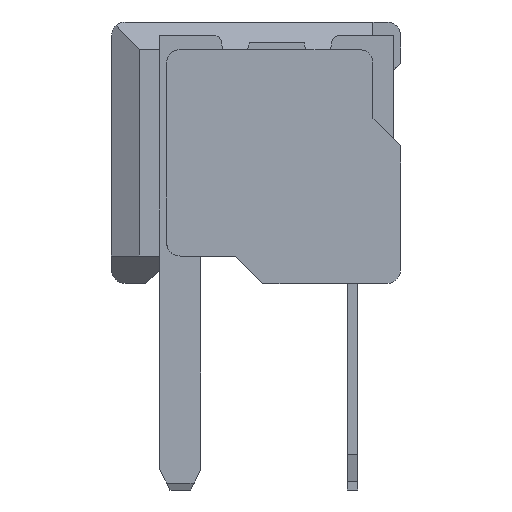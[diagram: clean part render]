
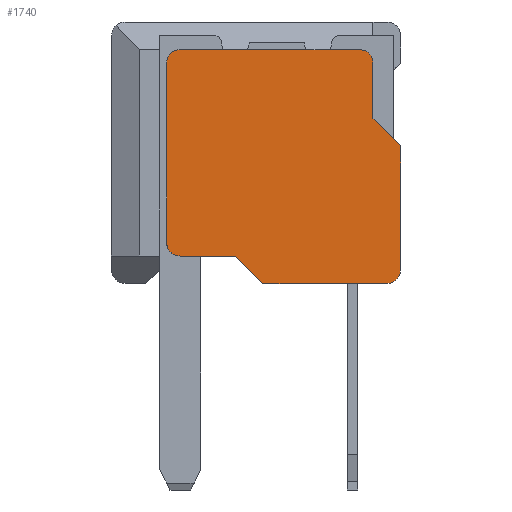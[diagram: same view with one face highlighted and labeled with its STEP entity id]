
A CAD part, left-side view. The second image highlights one B-rep face of the part: STEP entity #1740.
In plain terms, the highlighted planar face has unit normal (-1, 0, 0).
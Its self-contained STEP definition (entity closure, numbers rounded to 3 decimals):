
#253 = ORIENTED_EDGE ( 'NONE', *, *, #3588, .F. ) ;
#292 = LINE ( 'NONE', #7958, #14347 ) ;
#307 = CARTESIAN_POINT ( 'NONE',  ( 3.5, -1., 0.6 ) ) ;
#425 = CARTESIAN_POINT ( 'NONE',  ( 3.5, -3.6, 3.2 ) ) ;
#457 = ORIENTED_EDGE ( 'NONE', *, *, #16683, .F. ) ;
#714 = DIRECTION ( 'NONE',  ( -1., 0., 0. ) ) ;
#1103 = VERTEX_POINT ( 'NONE', #16041 ) ;
#1138 = ORIENTED_EDGE ( 'NONE', *, *, #11738, .F. ) ;
#1236 = LINE ( 'NONE', #6182, #3949 ) ;
#1487 = DIRECTION ( 'NONE',  ( 1., 0., 0. ) ) ;
#1680 = DIRECTION ( 'NONE',  ( 0., 1., 0. ) ) ;
#1740 = ADVANCED_FACE ( 'NONE', ( #6965 ), #8694, .T. ) ;
#1796 = DIRECTION ( 'NONE',  ( 0., 1., 0. ) ) ;
#1907 = CARTESIAN_POINT ( 'NONE',  ( 3.5, -4.2, 0.2 ) ) ;
#2311 = EDGE_CURVE ( 'NONE', #12417, #8822, #8635, .T. ) ;
#2374 = CARTESIAN_POINT ( 'NONE',  ( 3.5, -0.8, 3.2 ) ) ;
#2466 = ORIENTED_EDGE ( 'NONE', *, *, #6166, .F. ) ;
#2744 = ORIENTED_EDGE ( 'NONE', *, *, #9599, .T. ) ;
#2836 = CARTESIAN_POINT ( 'NONE',  ( 3.5, -0.8, 0. ) ) ;
#3136 = AXIS2_PLACEMENT_3D ( 'NONE', #425, #9749, #1796 ) ;
#3229 = VERTEX_POINT ( 'NONE', #16633 ) ;
#3588 = EDGE_CURVE ( 'NONE', #14820, #15399, #4627, .T. ) ;
#3787 = VECTOR ( 'NONE', #8516, 1000. ) ;
#3949 = VECTOR ( 'NONE', #15291, 1000. ) ;
#4174 = CARTESIAN_POINT ( 'NONE',  ( 3.5, -1., 3.4 ) ) ;
#4210 = CARTESIAN_POINT ( 'NONE',  ( 3.5, -1., 0.4 ) ) ;
#4317 = ORIENTED_EDGE ( 'NONE', *, *, #16395, .F. ) ;
#4334 = CARTESIAN_POINT ( 'NONE',  ( 3.5, -2.2, 0. ) ) ;
#4627 = CIRCLE ( 'NONE', #3136, 0.2 ) ;
#4688 = CARTESIAN_POINT ( 'NONE',  ( 3.5, 0., 0. ) ) ;
#4758 = CIRCLE ( 'NONE', #10606, 0.2 ) ;
#5199 = VECTOR ( 'NONE', #11966, 1000. ) ;
#5283 = CARTESIAN_POINT ( 'NONE',  ( 3.5, -4.2, 3.2 ) ) ;
#5446 = EDGE_CURVE ( 'NONE', #11433, #1103, #4758, .T. ) ;
#5584 = ORIENTED_EDGE ( 'NONE', *, *, #8073, .F. ) ;
#5737 = LINE ( 'NONE', #2836, #8843 ) ;
#6166 = EDGE_CURVE ( 'NONE', #13160, #10741, #8438, .T. ) ;
#6182 = CARTESIAN_POINT ( 'NONE',  ( 3.5, -3.8, 2.4 ) ) ;
#6287 = LINE ( 'NONE', #12554, #13264 ) ;
#6316 = VERTEX_POINT ( 'NONE', #7142 ) ;
#6494 = ORIENTED_EDGE ( 'NONE', *, *, #5446, .F. ) ;
#6794 = AXIS2_PLACEMENT_3D ( 'NONE', #4688, #714, #10015 ) ;
#6965 = FACE_OUTER_BOUND ( 'NONE', #15988, .T. ) ;
#6966 = DIRECTION ( 'NONE',  ( 0., 0.707, 0.707 ) ) ;
#6991 = CARTESIAN_POINT ( 'NONE',  ( 3.5, -3.6, 3.4 ) ) ;
#7142 = CARTESIAN_POINT ( 'NONE',  ( 3.5, -1.8, 0.4 ) ) ;
#7191 = DIRECTION ( 'NONE',  ( -1., 0., 0. ) ) ;
#7196 = CARTESIAN_POINT ( 'NONE',  ( 3.5, 0., 3.4 ) ) ;
#7958 = CARTESIAN_POINT ( 'NONE',  ( 3.5, 0., 0.4 ) ) ;
#8073 = EDGE_CURVE ( 'NONE', #10741, #14820, #14258, .T. ) ;
#8177 = DIRECTION ( 'NONE',  ( 0., 0., 1. ) ) ;
#8438 = CIRCLE ( 'NONE', #13425, 0.2 ) ;
#8516 = DIRECTION ( 'NONE',  ( 0., -1., 0. ) ) ;
#8635 = CIRCLE ( 'NONE', #11030, 0.2 ) ;
#8694 = PLANE ( 'NONE',  #6794 ) ;
#8749 = VECTOR ( 'NONE', #14314, 1000. ) ;
#8822 = VERTEX_POINT ( 'NONE', #1907 ) ;
#8843 = VECTOR ( 'NONE', #8177, 1000. ) ;
#9445 = CARTESIAN_POINT ( 'NONE',  ( 3.5, -1., 3.2 ) ) ;
#9599 = EDGE_CURVE ( 'NONE', #8822, #3229, #12251, .T. ) ;
#9633 = DIRECTION ( 'NONE',  ( 1., 0., 0. ) ) ;
#9749 = DIRECTION ( 'NONE',  ( 1., 0., 0. ) ) ;
#9983 = CARTESIAN_POINT ( 'NONE',  ( 3.5, -4., 0. ) ) ;
#10005 = ORIENTED_EDGE ( 'NONE', *, *, #2311, .T. ) ;
#10015 = DIRECTION ( 'NONE',  ( 0., 0., 1. ) ) ;
#10083 = ORIENTED_EDGE ( 'NONE', *, *, #13738, .F. ) ;
#10398 = VERTEX_POINT ( 'NONE', #4334 ) ;
#10606 = AXIS2_PLACEMENT_3D ( 'NONE', #307, #9633, #1680 ) ;
#10741 = VERTEX_POINT ( 'NONE', #4174 ) ;
#10780 = DIRECTION ( 'NONE',  ( 0., 0., -1. ) ) ;
#10846 = CARTESIAN_POINT ( 'NONE',  ( 3.5, -3.8, 2.4 ) ) ;
#10911 = CARTESIAN_POINT ( 'NONE',  ( 3.5, -3.8, 3.2 ) ) ;
#11030 = AXIS2_PLACEMENT_3D ( 'NONE', #14972, #7191, #16298 ) ;
#11401 = VECTOR ( 'NONE', #6966, 1000. ) ;
#11433 = VERTEX_POINT ( 'NONE', #4210 ) ;
#11738 = EDGE_CURVE ( 'NONE', #15331, #3229, #1236, .T. ) ;
#11965 = DIRECTION ( 'NONE',  ( 0., 1., 0. ) ) ;
#11966 = DIRECTION ( 'NONE',  ( 0., 0., 1. ) ) ;
#12251 = LINE ( 'NONE', #5283, #5199 ) ;
#12268 = LINE ( 'NONE', #14206, #8749 ) ;
#12417 = VERTEX_POINT ( 'NONE', #9983 ) ;
#12554 = CARTESIAN_POINT ( 'NONE',  ( 3.5, -3.8, 0. ) ) ;
#12873 = EDGE_CURVE ( 'NONE', #10398, #6316, #14374, .T. ) ;
#13160 = VERTEX_POINT ( 'NONE', #2374 ) ;
#13264 = VECTOR ( 'NONE', #13814, 1000. ) ;
#13425 = AXIS2_PLACEMENT_3D ( 'NONE', #9445, #1487, #10780 ) ;
#13629 = EDGE_CURVE ( 'NONE', #6316, #11433, #292, .T. ) ;
#13738 = EDGE_CURVE ( 'NONE', #1103, #13160, #5737, .T. ) ;
#13814 = DIRECTION ( 'NONE',  ( 0., 0., -1. ) ) ;
#14003 = ORIENTED_EDGE ( 'NONE', *, *, #13629, .F. ) ;
#14203 = ORIENTED_EDGE ( 'NONE', *, *, #12873, .F. ) ;
#14206 = CARTESIAN_POINT ( 'NONE',  ( 3.5, 0., 0. ) ) ;
#14258 = LINE ( 'NONE', #7196, #3787 ) ;
#14314 = DIRECTION ( 'NONE',  ( 0., 1., 0. ) ) ;
#14347 = VECTOR ( 'NONE', #11965, 1000. ) ;
#14374 = LINE ( 'NONE', #14777, #11401 ) ;
#14777 = CARTESIAN_POINT ( 'NONE',  ( 3.5, -2.2, 0. ) ) ;
#14820 = VERTEX_POINT ( 'NONE', #6991 ) ;
#14972 = CARTESIAN_POINT ( 'NONE',  ( 3.5, -4., 0.2 ) ) ;
#15291 = DIRECTION ( 'NONE',  ( 0., -0.707, -0.707 ) ) ;
#15331 = VERTEX_POINT ( 'NONE', #10846 ) ;
#15399 = VERTEX_POINT ( 'NONE', #10911 ) ;
#15988 = EDGE_LOOP ( 'NONE', ( #14203, #457, #10005, #2744, #1138, #4317, #253, #5584, #2466, #10083, #6494, #14003 ) ) ;
#16041 = CARTESIAN_POINT ( 'NONE',  ( 3.5, -0.8, 0.6 ) ) ;
#16298 = DIRECTION ( 'NONE',  ( 0., 0., -1. ) ) ;
#16395 = EDGE_CURVE ( 'NONE', #15399, #15331, #6287, .T. ) ;
#16633 = CARTESIAN_POINT ( 'NONE',  ( 3.5, -4.2, 2. ) ) ;
#16683 = EDGE_CURVE ( 'NONE', #12417, #10398, #12268, .T. ) ;
